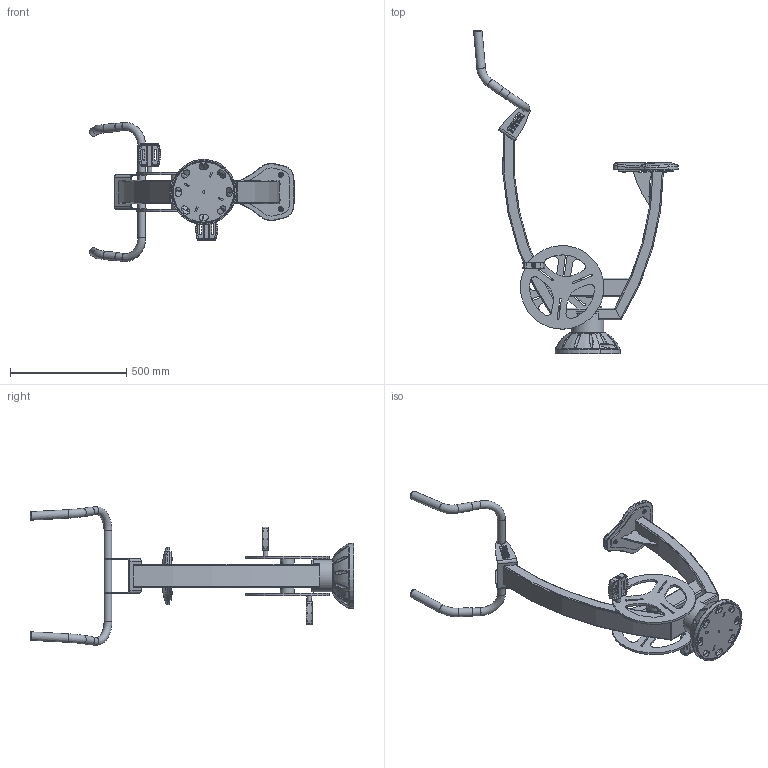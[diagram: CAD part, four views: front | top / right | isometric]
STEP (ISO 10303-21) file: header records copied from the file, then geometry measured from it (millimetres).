
FILE_DESCRIPTION (( 'STEP AP214' ), '1' );
FILE_NAME ('CT0109 - VELO V3.1.STEP', '2015-12-23T10:34:04', ( '' ), ( '' ), 'SwSTEP 2.0', 'SolidWorks 2014', '' );
FILE_SCHEMA (( 'AUTOMOTIVE_DESIGN' ));
Length unit declared in the file: millimetre
Products named in the file (38): TRESPA-CT0109A - Tube support palier v幨o V2.0; SP0607 - Poignee plastique D.33,7 L=300_V俵o; SC0304 - Demi cache platine D140 V4.0; TOLGOSELVEL.A - Gousset sous selle vélo V1.1; SRP0207.A - Pédale V1.3; DISPED-CT0109 - DISQUE PEDALIER VELO V3.0; ARTICULATION D60 CHAPE 70 V1.1; PU-TRETRAV675 - Tube rectangulaire cintré R1200 100x50x3 L675 V1.0; SR0433 - Rondelle plastique bouchon bague D60 d.25; SB0126 - Vis Torx teton central M10x25; PU-TRETRAV850 - Tube rectangulaire cintré R1200 100x50x3 L850 V1.0; SRR0804 - Roulement 6205 52-25-15; SR0410 - Rondelle Grower M10 A2; PU-TROCB160 - Colonne base D.139,7x3 Ht160 V1.0; SA1420.A - Axe Inox D.25mm L137 V2.0; SR0426 - Rondelle plate petite M10 A2 ext 18mm; BATI-CT0109 - BATI VELO V3.1; TRECHI-CT0109A - Tube châssis inférieur vélo V3.0; SA1419A - Axe pédale V1.1; CT0109 - VELO V3.1; PU-OPEDL.A - Opercule base  D.134 H=18 V1.1; SA1440 - Goupille avec plat D.15 V1.0; SBA1603.A - Bague manivelle support goupille V2.0; PLATINE BASE ASS V2.0; TOLDIPE-CT0109A - Disque pédalier vélo V1.1; PU-TOLGOPL - Gousset platine V2.0; PU-TOLPLAT - Platine base V1.0; SSD0711 - SELLE BETON ASS V1.3_Ｑ.5; TROGUI-CT0109 - Tube guidon v幨o V1.0; SR0415 - Rondelle Grower M8 A2; TOLEMGU-CT0109A - Embase guidon v幨o V3.1; SR0404 - Rondelle plate Moyenne M8 A2; SSD0711 - Selle béton V1.9; SSD0708A - Support selle béton V1.0; SC0304 - CACHE PLATINE ASS V4.0; SBA1619 - Bague 6205 L64 V1.0; SB0112 - Vis Torx teton central M8x20_M8x20; SR0435 - Rondelle nitrile 10x22x2
Assembly tree (58 placements, depth 4):
  CT0109 - VELO V3.1
    BATI-CT0109 - BATI VELO V3.1
      PU-TROCB160 - Colonne base D.139,7x3 Ht160 V1.0
      PU-TRETRAV850 - Tube rectangulaire cintré R1200 100x50x3 L850 V1.0
      PU-TRETRAV675 - Tube rectangulaire cintré R1200 100x50x3 L675 V1.0
      TOLGOSELVEL.A - Gousset sous selle vélo V1.1
      TRESPA-CT0109A - Tube support palier v幨o V2.0
      SBA1619 - Bague 6205 L64 V1.0
      SSD0708A - Support selle béton V1.0
      TOLEMGU-CT0109A - Embase guidon v幨o V3.1
      TROGUI-CT0109 - Tube guidon v幨o V1.0
      PLATINE BASE ASS V2.0
        PU-TOLPLAT - Platine base V1.0
        PU-TOLGOPL - Gousset platine V2.0  x4
      PU-OPEDL.A - Opercule base  D.134 H=18 V1.1  x2
      TRECHI-CT0109A - Tube châssis inférieur vélo V3.0
    ARTICULATION D60 CHAPE 70 V1.1
      SA1420.A - Axe Inox D.25mm L137 V2.0
      SRR0804 - Roulement 6205 52-25-15  x2
      SR0433 - Rondelle plastique bouchon bague D60 d.25  x2
    SRP0207.A - Pédale V1.3  x2
    SC0304 - CACHE PLATINE ASS V4.0
      SC0304 - Demi cache platine D140 V4.0
      SB0112 - Vis Torx teton central M8x20_M8x20  x2
    SSD0711 - SELLE BETON ASS V1.3_Ｑ.5
      SSD0711 - Selle béton V1.9
      SR0404 - Rondelle plate Moyenne M8 A2  x3
      SB0112 - Vis Torx teton central M8x20_M8x20  x3
      SR0415 - Rondelle Grower M8 A2  x3
    DISPED-CT0109 - DISQUE PEDALIER VELO V3.0  x2
      TOLDIPE-CT0109A - Disque pédalier vélo V1.1
      SBA1603.A - Bague manivelle support goupille V2.0
      SA1440 - Goupille avec plat D.15 V1.0
      SA1419A - Axe pédale V1.1
      SR0404 - Rondelle plate Moyenne M8 A2
      SB0112 - Vis Torx teton central M8x20_M8x20
      SR0426 - Rondelle plate petite M10 A2 ext 18mm
      SR0410 - Rondelle Grower M10 A2
      SB0126 - Vis Torx teton central M10x25
    SP0607 - Poignee plastique D.33,7 L=300_V俵o  x2
    SR0435 - Rondelle nitrile 10x22x2  x3
Bounding box: 882.84 x 1394.39 x 597.91 mm (x, y, z)
Volume: 7205029.4 mm3; surface area: 2782646.4 mm2
Topology: 69 solids, 69 shells, 2025 faces, 5058 edges, 3266 vertices
Faces by surface type: plane 619, bspline 612, cylinder 521, cone 182, torus 81, sphere 10
Full cylindrical faces by diameter (mm): 1.8 x7, 2.64 x2, 6.5 x4, 6.647 x2, 6.8 x5, 6.95 x7, 8 x7, 8.3 x2, 8.4 x5, 8.5 x4, 9.3 x2, 10 x3, 10.5 x11, 11.8 x2, 12.5 x2, 15 x2, 15.1 x2, 15.3 x2, 18 x7, 20 x4, 22 x3, 25 x3, 25.2 x2, 25.3 x2, 27.9 x5, 31.2 x4, 32.292 x4, 33.7 x5, 34.7 x4, 35 x3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
Entity records: 132755 total; most frequent: CARTESIAN_POINT 98673, ORIENTED_EDGE 7276, DIRECTION 5242, EDGE_CURVE 3638, VERTEX_POINT 2419, AXIS2_PLACEMENT_3D 2015, EDGE_LOOP 1889, FACE_OUTER_BOUND 1635
